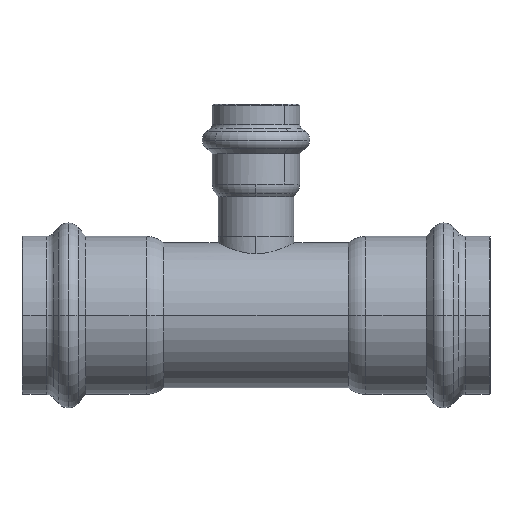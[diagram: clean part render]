
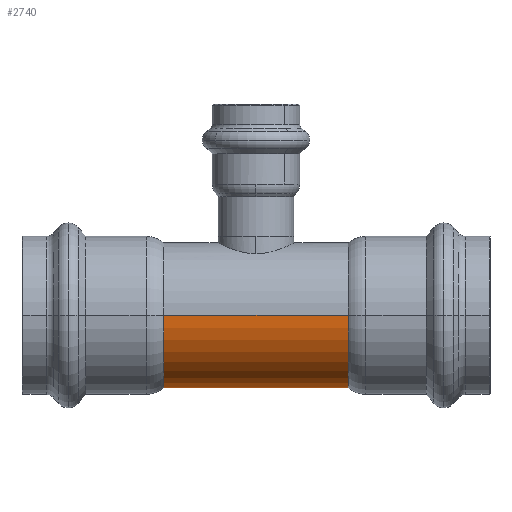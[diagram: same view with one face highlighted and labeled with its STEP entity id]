
A CAD part, left-side view. The second image highlights one B-rep face of the part: STEP entity #2740.
In plain terms, the highlighted cylindrical face has radius 21 mm (diameter 42 mm), a partial arc.
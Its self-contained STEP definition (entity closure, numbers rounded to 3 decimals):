
#2190=CARTESIAN_POINT('',(52.006,36.962,0.));
#2200=VERTEX_POINT('',#2190);
#2290=CARTESIAN_POINT('',(10.006,36.962,0.));
#2300=VERTEX_POINT('',#2290);
#2330=CARTESIAN_POINT('',(31.006,36.962,0.));
#2340=DIRECTION('',(0.,1.,0.));
#2350=DIRECTION('',(-1.,0.,0.));
#2360=AXIS2_PLACEMENT_3D('',#2330,#2340,#2350);
#2370=CIRCLE('',#2360,21.);
#2380=EDGE_CURVE('',#2200,#2300,#2370,.T.);
#2430=CARTESIAN_POINT('',(31.006,10.162,0.));
#2440=DIRECTION('',(0.,1.,0.));
#2450=DIRECTION('',(1.,0.,0.));
#2460=AXIS2_PLACEMENT_3D('',#2430,#2440,#2450);
#2470=CYLINDRICAL_SURFACE('',#2460,21.);
#2480=CARTESIAN_POINT('',(52.006,10.162,0.));
#2490=DIRECTION('',(0.,1.,0.));
#2500=VECTOR('',#2490,1.);
#2510=LINE('',#2480,#2500);
#2520=CARTESIAN_POINT('',(52.006,-16.638,0.));
#2530=VERTEX_POINT('',#2520);
#2540=EDGE_CURVE('',#2530,#2200,#2510,.T.);
#2550=ORIENTED_EDGE('',*,*,#2540,.F.);
#2560=ORIENTED_EDGE('',*,*,#2380,.F.);
#2570=CARTESIAN_POINT('',(10.006,10.162,
0.));
#2580=DIRECTION('',(0.,1.,0.));
#2590=VECTOR('',#2580,1.);
#2600=LINE('',#2570,#2590);
#2610=CARTESIAN_POINT('',(10.006,-16.638,0.));
#2620=VERTEX_POINT('',#2610);
#2630=EDGE_CURVE('',#2620,#2300,#2600,.T.);
#2640=ORIENTED_EDGE('',*,*,#2630,.T.);
#2650=CARTESIAN_POINT('',(31.006,-16.638,0.));
#2660=DIRECTION('',(0.,1.,0.));
#2670=DIRECTION('',(-1.,0.,0.));
#2680=AXIS2_PLACEMENT_3D('',#2650,#2660,#2670);
#2690=CIRCLE('',#2680,21.);
#2700=EDGE_CURVE('',#2530,#2620,#2690,.T.);
#2710=ORIENTED_EDGE('',*,*,#2700,.T.);
#2720=EDGE_LOOP('',(#2710,#2640,#2560,#2550));
#2730=FACE_OUTER_BOUND('',#2720,.T.);
#2740=ADVANCED_FACE('',(#2730),#2470,.T.);
